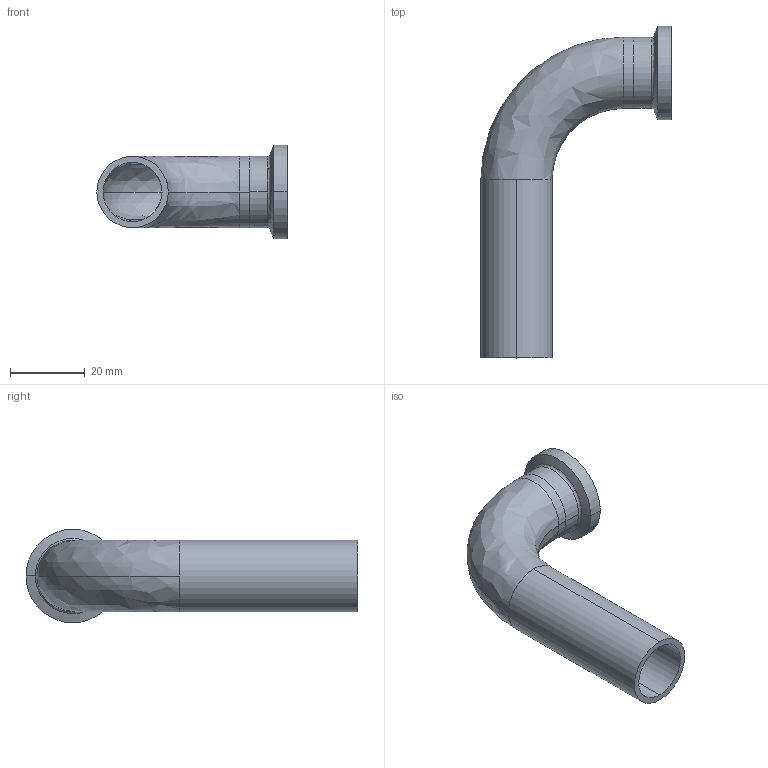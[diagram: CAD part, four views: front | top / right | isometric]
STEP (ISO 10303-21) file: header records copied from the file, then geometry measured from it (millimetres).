
FILE_DESCRIPTION (( 'STEP AP214' ), '1' );
FILE_NAME ('TE2C6L.75-...STEP', '2016-05-22T09:28:54', ( 'eran' ), ( '' ), 'SwSTEP 2.0', 'SolidWorks 2016', '' );
FILE_SCHEMA (( 'AUTOMOTIVE_DESIGN' ));
Length unit declared in the file: millimetre
Products named in the file (1): TE2C6L.75-..
Bounding box: 50.83 x 88.7 x 24.99 mm (x, y, z)
Volume: 10073.2 mm3; surface area: 12380.2 mm2
Topology: 2 solids, 2 shells, 37 faces, 90 edges, 58 vertices
Faces by surface type: cylinder 16, bspline 12, plane 5, cone 4
Entity records: 1305 total; most frequent: CARTESIAN_POINT 378, DIRECTION 204, ORIENTED_EDGE 180, AXIS2_PLACEMENT_3D 92, EDGE_CURVE 90, CIRCLE 66, VERTEX_POINT 58, EDGE_LOOP 42
